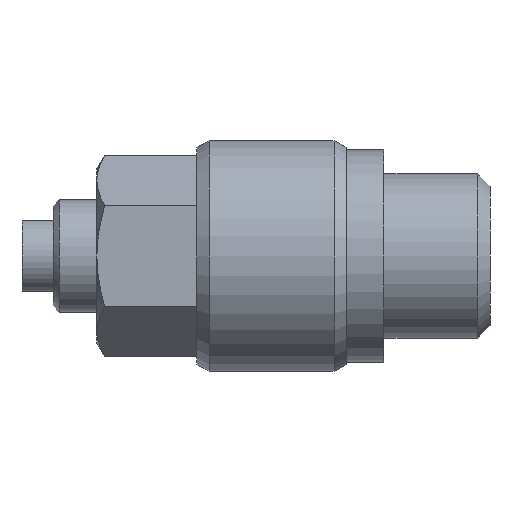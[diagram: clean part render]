
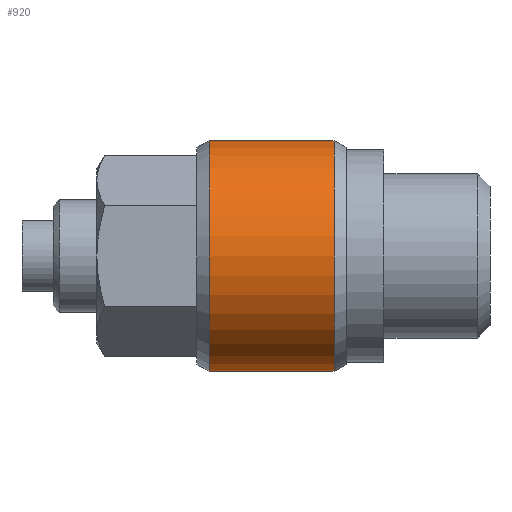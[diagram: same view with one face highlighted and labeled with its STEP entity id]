
A CAD part, left-side view. The second image highlights one B-rep face of the part: STEP entity #920.
In plain terms, the highlighted cylindrical face has radius 9.25 mm (diameter 18.5 mm), a full revolution.
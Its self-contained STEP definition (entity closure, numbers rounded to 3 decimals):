
#852=CARTESIAN_POINT('',(0.0,0.0,0.0));
#853=DIRECTION('',(0.0,-1.0,0.0));
#854=DIRECTION('',(1.0,0.0,0.0));
#855=AXIS2_PLACEMENT_3D('',#852,#853,#854);
#856=CYLINDRICAL_SURFACE('',#855,9.25);
#857=CARTESIAN_POINT('',(9.25,5.,0.0));
#858=VERTEX_POINT('',#857);
#859=CARTESIAN_POINT('',(0.0,5.0,0.0));
#860=DIRECTION('',(0.0,-1.0,0.0));
#861=DIRECTION('',(1.0,0.0,0.0));
#862=AXIS2_PLACEMENT_3D('',#859,#860,#861);
#863=CIRCLE('',#862,9.25);
#864=EDGE_CURVE('',#858,#858,#863,.T.);
#865=ORIENTED_EDGE('',*,*,#864,.T.);
#866=EDGE_LOOP('',(#865));
#867=FACE_OUTER_BOUND('',#866,.T.);
#868=CARTESIAN_POINT('',(9.25,-5.,0.0));
#869=VERTEX_POINT('',#868);
#870=CARTESIAN_POINT('',(0.0,-5.,0.0));
#871=DIRECTION('',(0.0,-1.0,0.0));
#872=DIRECTION('',(1.0,0.0,0.0));
#873=AXIS2_PLACEMENT_3D('',#870,#871,#872);
#874=CIRCLE('',#873,9.25);
#875=EDGE_CURVE('',#869,#869,#874,.T.);
#876=ORIENTED_EDGE('',*,*,#875,.F.);
#877=EDGE_LOOP('',(#876));
#878=FACE_BOUND('',#877,.T.);
#879=CARTESIAN_POINT('',(8.082,0.,4.5));
#880=VERTEX_POINT('',#879);
#881=CARTESIAN_POINT('',(8.082,0.,4.5));
#882=CARTESIAN_POINT('',(8.082,-0.577,4.5));
#883=CARTESIAN_POINT('',(8.15,-1.183,4.383));
#884=CARTESIAN_POINT('',(8.382,-2.288,3.921));
#885=CARTESIAN_POINT('',(8.541,-2.787,3.577));
#886=CARTESIAN_POINT('',(8.83,-3.576,2.788));
#887=CARTESIAN_POINT('',(8.98,-3.921,2.289));
#888=CARTESIAN_POINT('',(9.191,-4.383,1.182));
#889=CARTESIAN_POINT('',(9.25,-4.5,0.575));
#890=CARTESIAN_POINT('',(9.25,-4.5,-0.575));
#891=CARTESIAN_POINT('',(9.191,-4.383,-1.182));
#892=CARTESIAN_POINT('',(8.98,-3.921,-2.289));
#893=CARTESIAN_POINT('',(8.83,-3.576,-2.788));
#894=CARTESIAN_POINT('',(8.541,-2.787,-3.577));
#895=CARTESIAN_POINT('',(8.382,-2.288,-3.921));
#896=CARTESIAN_POINT('',(8.15,-1.183,-4.383));
#897=CARTESIAN_POINT('',(8.082,-0.577,-4.5));
#898=CARTESIAN_POINT('',(8.082,0.577,-4.5));
#899=CARTESIAN_POINT('',(8.15,1.183,-4.383));
#900=CARTESIAN_POINT('',(8.382,2.288,-3.921));
#901=CARTESIAN_POINT('',(8.541,2.787,-3.577));
#902=CARTESIAN_POINT('',(8.83,3.576,-2.788));
#903=CARTESIAN_POINT('',(8.98,3.921,-2.289));
#904=CARTESIAN_POINT('',(9.191,4.383,-1.182));
#905=CARTESIAN_POINT('',(9.25,4.5,-0.575));
#906=CARTESIAN_POINT('',(9.25,4.5,0.575));
#907=CARTESIAN_POINT('',(9.191,4.383,1.182));
#908=CARTESIAN_POINT('',(8.98,3.921,2.289));
#909=CARTESIAN_POINT('',(8.83,3.576,2.788));
#910=CARTESIAN_POINT('',(8.541,2.787,3.577));
#911=CARTESIAN_POINT('',(8.382,2.288,3.921));
#912=CARTESIAN_POINT('',(8.15,1.183,4.383));
#913=CARTESIAN_POINT('',(8.082,0.577,4.5));
#914=CARTESIAN_POINT('',(8.082,0.,4.5));
#915=B_SPLINE_CURVE_WITH_KNOTS('',3,(#881,#882,#883,#884,#885,#886,#887,#888,#889,#890,#891,#892,#893,#894,#895,#896,#897,#898,#899,#900,#901,#902,#903,#904,#905,#906,#907,#908,#909,#910,#911,#912,#913,#914),.UNSPECIFIED.,.T.,.U.,(4,2,2,2,2,2,2,2,2,2,2,2,2,2,2,2,4),(0.0,0.173,0.346,0.519,0.691,0.864,1.036,1.209,1.382,1.555,1.728,1.901,2.073,2.246,2.418,2.591,2.764),.UNSPECIFIED.);
#916=EDGE_CURVE('',#880,#880,#915,.T.);
#917=ORIENTED_EDGE('',*,*,#916,.F.);
#918=EDGE_LOOP('',(#917));
#919=FACE_BOUND('',#918,.T.);
#920=ADVANCED_FACE('',(#867,#878,#919),#856,.T.);
